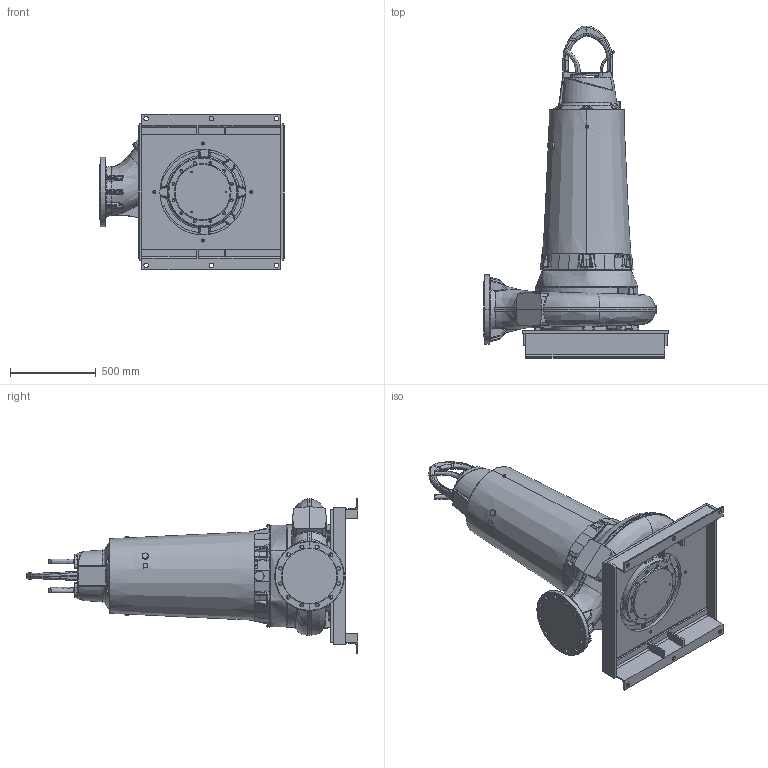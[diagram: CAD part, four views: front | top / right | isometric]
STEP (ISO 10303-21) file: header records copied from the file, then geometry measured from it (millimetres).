
FILE_DESCRIPTION (( 'STEP AP214' ), '1' );
FILE_NAME ('PE5_XFP250M-CH2_DRY_A_NG2.STEP', '2017-03-08T11:32:50', ( '' ), ( '' ), 'SwSTEP 2.0', 'SolidWorks 2017', '' );
FILE_SCHEMA (( 'AUTOMOTIVE_DESIGN' ));
Length unit declared in the file: millimetre
Products named in the file (1): PE5_XFP250M-CH2_DRY_A_NG2
Bounding box: 1075 x 1933.97 x 905 mm (x, y, z)
Volume: 347860288.5 mm3; surface area: 5823648.4 mm2
Topology: 3 solids, 5 shells, 1842 faces, 4572 edges, 2697 vertices
Faces by surface type: bspline 648, cylinder 439, plane 384, cone 196, torus 119, sphere 56
Entity records: 137963 total; most frequent: CARTESIAN_POINT 79921, ORIENTED_EDGE 8958, DIRECTION 6413, EDGE_CURVE 4479, VERTEX_POINT 2695, AXIS2_PLACEMENT_3D 2574, EDGE_LOOP 1954, UNCERTAINTY_MEASURE_WITH_UNIT 1847
